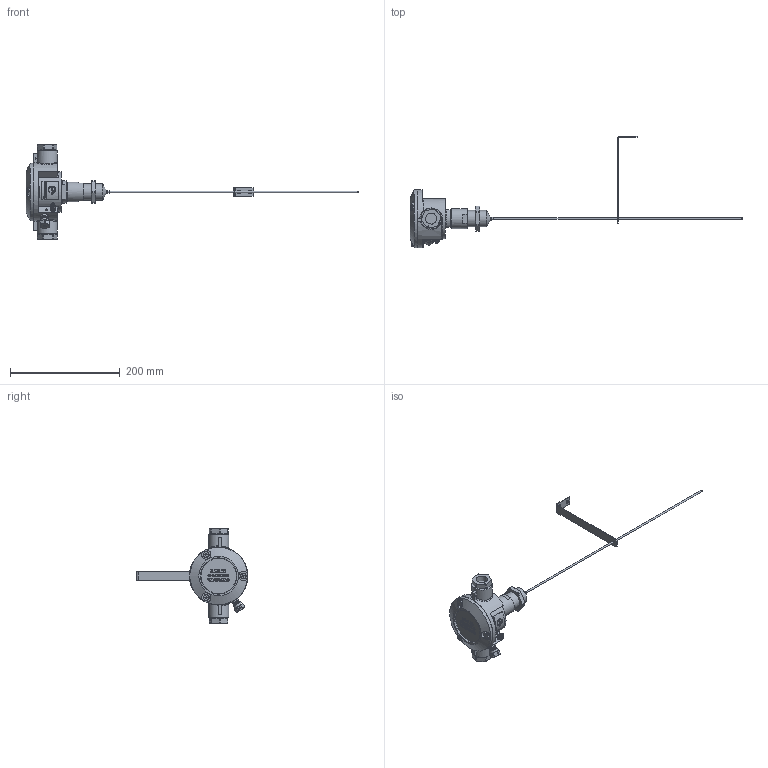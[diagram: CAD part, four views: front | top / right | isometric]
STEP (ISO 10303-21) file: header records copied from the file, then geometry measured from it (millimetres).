
FILE_DESCRIPTION(/* description */ ('','CAx-IF Rec.Pracs.---Representation and Presentation of Product Manufacturing Information (PMI)---3.8---2014-02-18'),/* implementation_level */ '2;1');
FILE_NAME(/* name */ 'C:\Users\suhorukovav\Desktop\ПОЖАРКА ДЛЯ САЙТА\НОВОЕ\ИП 102-1В-A ЗАО НПК ЭТАЛОН.stp',/* time_stamp */ '2016-12-25T10:45:59+03:00',/* author */ ('suhorukovav'),/* organization */ (''),/* preprocessor_version */ 'ST-DEVELOPER v16.1',/* originating_system */ 'Autodesk Inventor 2016',/* authorisation */ '');
FILE_SCHEMA (('AP242_MANAGED_MODEL_BASED_3D_ENGINEERING_MIM_LF { 1 0 10303 442 1 1 4 }'));
Length unit declared in the file: millimetre
Products named in the file (2): Сборка4_Substitute_1; Сборка4
Assembly tree (1 placements, depth 2):
  Сборка4
    Сборка4_Substitute_1
Bounding box: 604 x 203 x 172 mm (x, y, z)
Surface area: 120504.2 mm2 (no closed solid volume)
Topology: 0 solids, 43 shells, 1082 faces, 2686 edges, 1741 vertices
Faces by surface type: plane 558, bspline 228, cylinder 163, cone 111, torus 22
Full cylindrical faces by diameter (mm): 2 x15, 2.3 x1, 3 x1, 3.2 x2, 3.242 x5, 4 x1, 4.134 x4, 4.6 x1, 4.917 x3, 5 x2, 5.3 x2, 5.5 x1, 6 x4, 6.5 x5, 6.6 x2, 9.8 x2, 10 x2, 10.376 x2, 12 x2, 12.7 x1, 15 x6, 16 x1, 20 x4, 20.5 x2, 24 x4, 27 x2, 27.8 x1, 28.376 x2, 30 x2, 36 x1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
Entity records: 35354 total; most frequent: CARTESIAN_POINT 10783, ORIENTED_EDGE 4998, DIRECTION 4133, EDGE_CURVE 2499, VERTEX_POINT 1710, AXIS2_PLACEMENT_3D 1407, EDGE_LOOP 1375, LINE 1319
